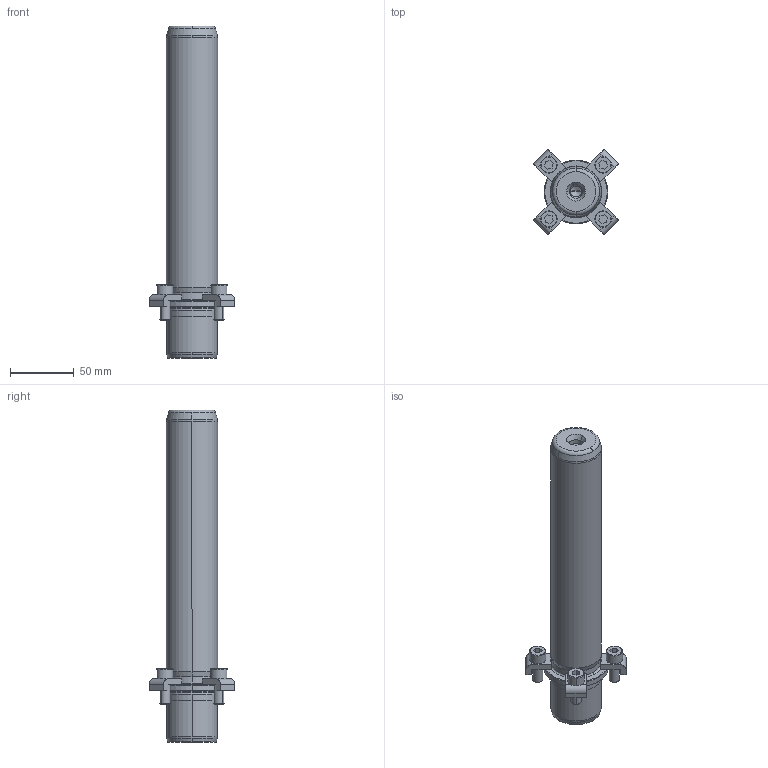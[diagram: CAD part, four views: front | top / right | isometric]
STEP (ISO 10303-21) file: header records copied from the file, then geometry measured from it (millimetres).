
FILE_DESCRIPTION((''),'2;1');
FILE_NAME('P21_040_220.stp','2008-12-23T11:26:46',(''),(''),'Mechanical Desktop 2009','Mechanical Desktop 2009',', , ');
FILE_SCHEMA(('CONFIG_CONTROL_DESIGN'));
Length unit declared in the file: millimetre
Products named in the file (2): Product; blmdl1
Assembly tree (1 placements, depth 2):
  Product
    blmdl1
Bounding box: 66.82 x 66.82 x 260 mm (x, y, z)
Volume: 336858.2 mm3; surface area: 46939.8 mm2
Topology: 9 solids, 9 shells, 203 faces, 501 edges, 325 vertices
Faces by surface type: plane 81, cylinder 56, cone 34, torus 16, bspline 16
Entity records: 6819 total; most frequent: CARTESIAN_POINT 1731, DIRECTION 1126, ORIENTED_EDGE 994, EDGE_CURVE 497, AXIS2_PLACEMENT_3D 440, VERTEX_POINT 325, CIRCLE 251, VECTOR 246
